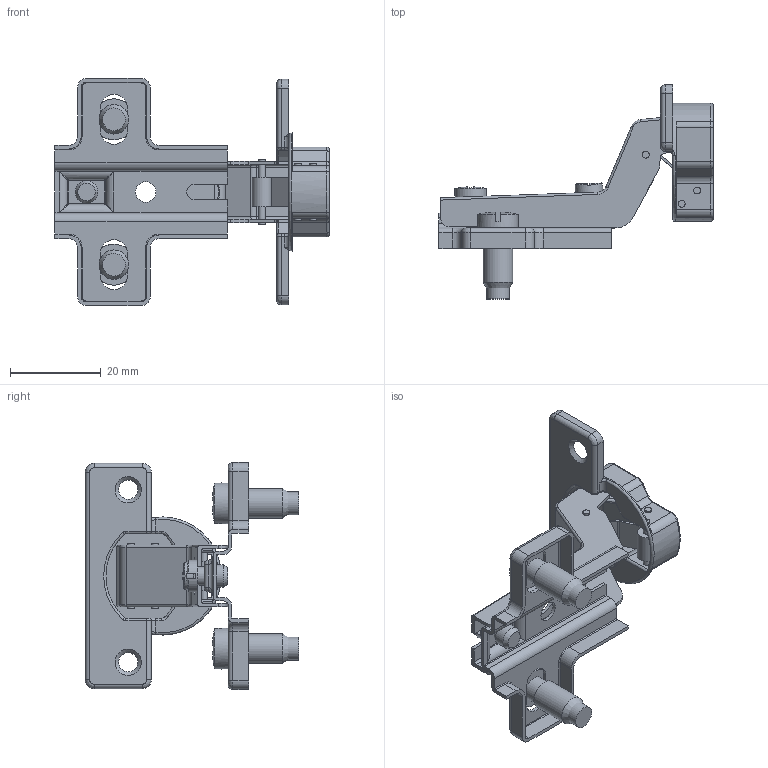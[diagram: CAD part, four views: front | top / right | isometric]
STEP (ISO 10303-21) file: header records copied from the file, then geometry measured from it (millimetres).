
FILE_DESCRIPTION(/* description */ (''),/* implementation_level */ '2;1');
FILE_NAME(/* name */ 'W:\R&D\pub\Katalog techniczny\bryły 3D\ZP-CIBI7H0ZE.stp',/* time_stamp */ '2016-09-14T09:19:10+02:00',/* author */ ('tomaszw'),/* organization */ (''),/* preprocessor_version */ 'ST-DEVELOPER v16.1',/* originating_system */ 'Autodesk Inventor 2016',/* authorisation */ '');
FILE_SCHEMA (('AUTOMOTIVE_DESIGN { 1 0 10303 214 3 1 1 }'));
Length unit declared in the file: millimetre
Products named in the file (11): ZP-CIBI-P; ZP-CIBI7; ZP-CIBI_2; ZP-CIBI_1; ZP-CIBI_4; ZP-CIBI_3; ZP-CIBI_Pin2; ZP-CIBI_Pin1; Euro; Wkret4x6; ZP-CIBI7(8)(9)H0ZE
Assembly tree (13 placements, depth 2):
  ZP-CIBI7(8)(9)H0ZE
    ZP-CIBI-P
    ZP-CIBI7
    ZP-CIBI_2
    ZP-CIBI_1
    ZP-CIBI_4
    ZP-CIBI_3
    ZP-CIBI_Pin2  x2
    ZP-CIBI_Pin1  x2
    Euro  x2
    Wkret4x6
Bounding box: 60.4 x 47.1 x 50 mm (x, y, z)
Volume: 6305 mm3; surface area: 13924.4 mm2
Topology: 15 solids, 15 shells, 486 faces, 1215 edges, 751 vertices
Faces by surface type: plane 198, cylinder 196, torus 44, bspline 22, sphere 14, cone 12
Full cylindrical faces by diameter (mm): 1.5 x18, 3.5 x1, 4 x1, 4.5 x1, 5 x3, 5.5 x2, 6 x1, 6.5 x3, 7 x1, 9 x2, 26 x1
Entity records: 14595 total; most frequent: CARTESIAN_POINT 2789, DIRECTION 2502, ORIENTED_EDGE 2218, EDGE_CURVE 1109, AXIS2_PLACEMENT_3D 957, VERTEX_POINT 707, LINE 588, VECTOR 588
